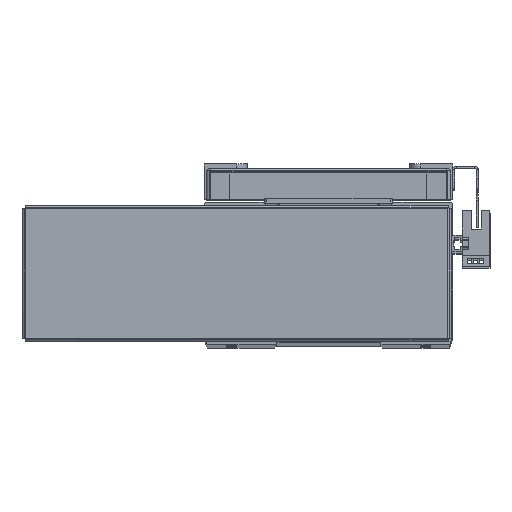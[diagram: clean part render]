
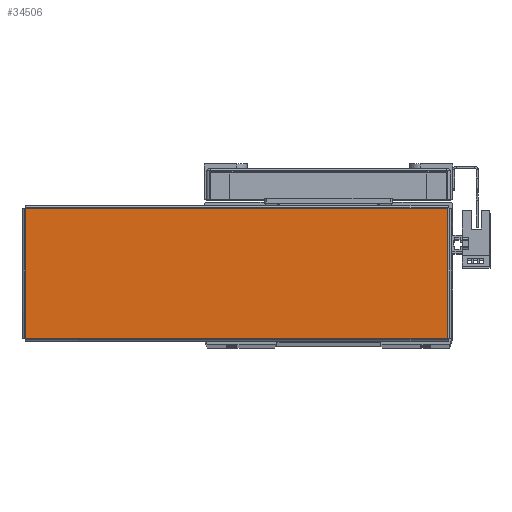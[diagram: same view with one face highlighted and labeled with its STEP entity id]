
A CAD part, top view. The second image highlights one B-rep face of the part: STEP entity #34506.
In plain terms, the highlighted planar face has unit normal (0, 0, 1) as drawn and (0, -1, 0) by its records, which use the part's own axes.
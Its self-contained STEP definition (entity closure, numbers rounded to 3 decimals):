
#7974 = EDGE_LOOP ( 'NONE', ( #18582, #18525, #18576, #18527 ) ) ;
#8454 = PLANE ( 'NONE',  #14804 ) ;
#8457 = DIRECTION ( 'NONE',  ( 0., 0., 1. ) ) ;
#8461 = CARTESIAN_POINT ( 'NONE',  ( 0., -1., 0. ) ) ;
#8462 = DIRECTION ( 'NONE',  ( 0., 1., 0. ) ) ;
#14804 = AXIS2_PLACEMENT_3D ( 'NONE', #8461, #8462, #8457 ) ;
#16667 = FACE_OUTER_BOUND ( 'NONE', #7974, .T. ) ;
#18525 = ORIENTED_EDGE ( 'NONE', *, *, #26386, .T. ) ;
#18527 = ORIENTED_EDGE ( 'NONE', *, *, #26279, .T. ) ;
#18576 = ORIENTED_EDGE ( 'NONE', *, *, #26360, .T. ) ;
#18582 = ORIENTED_EDGE ( 'NONE', *, *, #26335, .T. ) ;
#20244 = VERTEX_POINT ( 'NONE', #43671 ) ;
#20250 = VERTEX_POINT ( 'NONE', #43626 ) ;
#20279 = VERTEX_POINT ( 'NONE', #43773 ) ;
#20285 = VERTEX_POINT ( 'NONE', #43742 ) ;
#26279 = EDGE_CURVE ( 'NONE', #20250, #20285, #45259, .T. ) ;
#26335 = EDGE_CURVE ( 'NONE', #20285, #20279, #45293, .T. ) ;
#26360 = EDGE_CURVE ( 'NONE', #20244, #20250, #45354, .T. ) ;
#26386 = EDGE_CURVE ( 'NONE', #20279, #20244, #45476, .T. ) ;
#34506 = ADVANCED_FACE ( 'NONE', ( #16667 ), #8454, .F. ) ;
#41066 = DIRECTION ( 'NONE',  ( 0., 0., 1. ) ) ;
#41081 = CARTESIAN_POINT ( 'NONE',  ( 103.763, -1., -31.793 ) ) ;
#41524 = CARTESIAN_POINT ( 'NONE',  ( 103.793, -1., 31.763 ) ) ;
#41526 = DIRECTION ( 'NONE',  ( -1., 0., 0. ) ) ;
#41553 = CARTESIAN_POINT ( 'NONE',  ( -103.793, -1., -31.763 ) ) ;
#41559 = DIRECTION ( 'NONE',  ( 1., 0., 0. ) ) ;
#41810 = DIRECTION ( 'NONE',  ( 0., 0., -1. ) ) ;
#41822 = CARTESIAN_POINT ( 'NONE',  ( -103.763, -1., 31.793 ) ) ;
#43626 = CARTESIAN_POINT ( 'NONE',  ( 103.763, -1., -31.763 ) ) ;
#43671 = CARTESIAN_POINT ( 'NONE',  ( -103.763, -1., -31.763 ) ) ;
#43742 = CARTESIAN_POINT ( 'NONE',  ( 103.763, -1., 31.763 ) ) ;
#43773 = CARTESIAN_POINT ( 'NONE',  ( -103.763, -1., 31.763 ) ) ;
#45259 = LINE ( 'NONE', #41081, #45282 ) ;
#45282 = VECTOR ( 'NONE', #41066, 1000. ) ;
#45293 = LINE ( 'NONE', #41524, #45294 ) ;
#45294 = VECTOR ( 'NONE', #41526, 1000. ) ;
#45354 = LINE ( 'NONE', #41553, #45358 ) ;
#45358 = VECTOR ( 'NONE', #41559, 1000. ) ;
#45433 = VECTOR ( 'NONE', #41810, 1000. ) ;
#45476 = LINE ( 'NONE', #41822, #45433 ) ;
